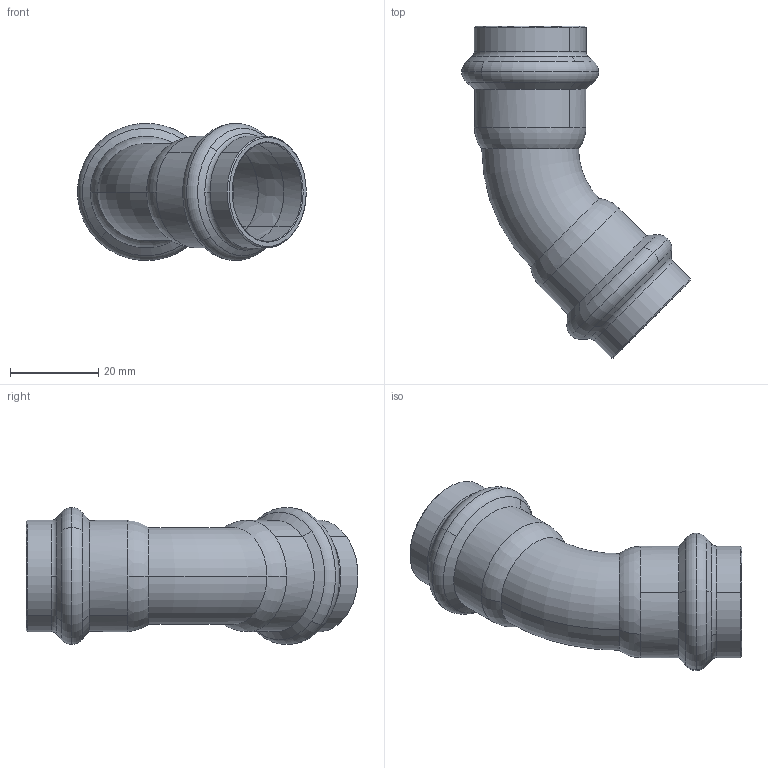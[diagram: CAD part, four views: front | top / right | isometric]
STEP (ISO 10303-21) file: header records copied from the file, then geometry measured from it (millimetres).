
FILE_DESCRIPTION(('CoCreate Modeling STEP Export'),'2;1');
FILE_NAME('8041VW22.stp','2013-01-29T14:25:49',(''),(''),'CoCreate Modeling STEP processor for AP214 (Solid Model)','CoCreate Modeling 17.00A 17-Jun-2010 (C) Parametric Technology GmbH','');
FILE_SCHEMA(('AUTOMOTIVE_DESIGN { 1 0 10303 214 1 1 1 1 }'));
Length unit declared in the file: millimetre
Products named in the file (1): 8041VW22
Bounding box: 51.91 x 75.39 x 31.08 mm (x, y, z)
Volume: 11152 mm3; surface area: 12249.4 mm2
Topology: 1 solids, 1 shells, 78 faces, 217 edges, 145 vertices
Faces by surface type: torus 32, cylinder 20, cone 20, plane 6
Entity records: 2453 total; most frequent: CARTESIAN_POINT 796, ORIENTED_EDGE 434, DIRECTION 272, EDGE_CURVE 217, VERTEX_POINT 145, AXIS2_PLACEMENT_3D 116, EDGE_LOOP 84, FACE_OUTER_BOUND 78
